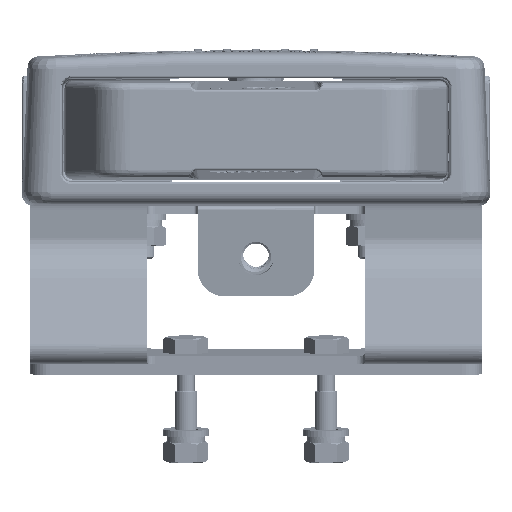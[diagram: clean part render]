
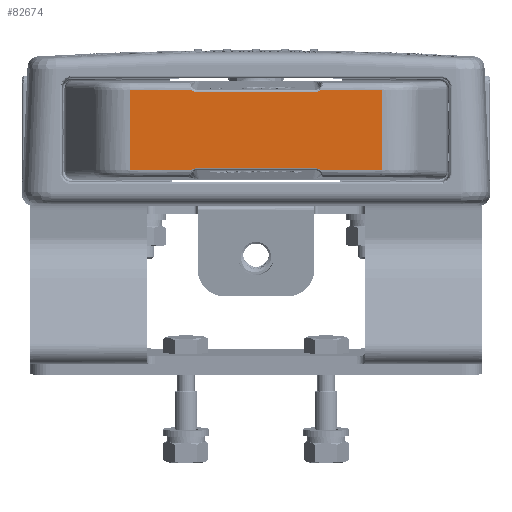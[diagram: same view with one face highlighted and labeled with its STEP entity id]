
A CAD part, front view. The second image highlights one B-rep face of the part: STEP entity #82674.
In plain terms, the highlighted planar face has unit normal (0, -1, 0) as drawn and (0, 0, 1) by its records, which use the part's own axes.
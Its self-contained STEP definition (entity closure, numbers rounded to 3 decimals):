
#74331=CARTESIAN_POINT('',(15.288,-9.802,
-9.326));
#74332=CARTESIAN_POINT('',(15.364,-9.802,
-9.326));
#74333=CARTESIAN_POINT('',(15.515,-9.81,
-9.326));
#74334=CARTESIAN_POINT('',(15.74,-9.849,
-9.326));
#74335=CARTESIAN_POINT('',(15.885,-9.892,
-9.326));
#74336=CARTESIAN_POINT('',(15.956,-9.917,
-9.326));
#74341=CARTESIAN_POINT('',(-15.956,-9.917,
-9.326));
#74342=CARTESIAN_POINT('',(-15.885,-9.892,
-9.326));
#74343=CARTESIAN_POINT('',(-15.74,-9.849,
-9.326));
#74344=CARTESIAN_POINT('',(-15.515,-9.81,
-9.326));
#74345=CARTESIAN_POINT('',(-15.364,-9.802,
-9.326));
#74346=CARTESIAN_POINT('',(-15.288,-9.802,
-9.326));
#74351=CARTESIAN_POINT('',(-16.45,-10.176,
-9.326));
#74352=CARTESIAN_POINT('',(-16.4,-10.14,
-9.326));
#74353=CARTESIAN_POINT('',(-16.295,-10.072,
-9.326));
#74354=CARTESIAN_POINT('',(-16.13,-9.985,
-9.326));
#74355=CARTESIAN_POINT('',(-16.015,-9.938,
-9.326));
#74356=CARTESIAN_POINT('',(-15.956,-9.917,
-9.326));
#74361=DIRECTION('',(1.,0.,0.));
#74362=VECTOR('',#74361,15.892);
#74363=CARTESIAN_POINT('',(-32.342,-10.176,
-9.326));
#74364=LINE('',#74363,#74362);
#74368=DIRECTION('',(-1.,0.,0.));
#74369=VECTOR('',#74368,15.892);
#74370=CARTESIAN_POINT('',(-16.45,10.176,
-9.326));
#74371=LINE('',#74370,#74369);
#74375=CARTESIAN_POINT('',(-15.956,9.917,
-9.326));
#74376=CARTESIAN_POINT('',(-16.015,9.938,
-9.326));
#74377=CARTESIAN_POINT('',(-16.13,9.985,
-9.326));
#74378=CARTESIAN_POINT('',(-16.295,10.072,
-9.326));
#74379=CARTESIAN_POINT('',(-16.4,10.14,
-9.326));
#74380=CARTESIAN_POINT('',(-16.45,10.176,
-9.326));
#74385=CARTESIAN_POINT('',(-15.288,9.802,
-9.326));
#74386=CARTESIAN_POINT('',(-15.364,9.802,
-9.326));
#74387=CARTESIAN_POINT('',(-15.515,9.81,
-9.326));
#74388=CARTESIAN_POINT('',(-15.74,9.849,
-9.326));
#74389=CARTESIAN_POINT('',(-15.885,9.892,
-9.326));
#74390=CARTESIAN_POINT('',(-15.956,9.917,
-9.326));
#74395=CARTESIAN_POINT('',(15.956,9.917,
-9.326));
#74396=CARTESIAN_POINT('',(15.885,9.892,
-9.326));
#74397=CARTESIAN_POINT('',(15.74,9.849,
-9.326));
#74398=CARTESIAN_POINT('',(15.515,9.81,
-9.326));
#74399=CARTESIAN_POINT('',(15.364,9.802,
-9.326));
#74400=CARTESIAN_POINT('',(15.288,9.802,
-9.326));
#74405=CARTESIAN_POINT('',(16.45,10.176,
-9.326));
#74406=CARTESIAN_POINT('',(16.4,10.14,
-9.326));
#74407=CARTESIAN_POINT('',(16.295,10.072,
-9.326));
#74408=CARTESIAN_POINT('',(16.13,9.985,
-9.326));
#74409=CARTESIAN_POINT('',(16.015,9.938,
-9.326));
#74410=CARTESIAN_POINT('',(15.956,9.917,
-9.326));
#74415=DIRECTION('',(-1.,0.,0.));
#74416=VECTOR('',#74415,15.892);
#74417=CARTESIAN_POINT('',(32.342,10.176,
-9.326));
#74418=LINE('',#74417,#74416);
#74422=DIRECTION('',(1.,0.,0.));
#74423=VECTOR('',#74422,15.892);
#74424=CARTESIAN_POINT('',(16.45,-10.176,
-9.326));
#74425=LINE('',#74424,#74423);
#74429=CARTESIAN_POINT('',(15.956,-9.917,
-9.326));
#74430=CARTESIAN_POINT('',(16.015,-9.938,
-9.326));
#74431=CARTESIAN_POINT('',(16.13,-9.985,
-9.326));
#74432=CARTESIAN_POINT('',(16.295,-10.072,
-9.326));
#74433=CARTESIAN_POINT('',(16.4,-10.14,
-9.326));
#74434=CARTESIAN_POINT('',(16.45,-10.176,
-9.326));
#74578=DIRECTION('',(0.,-1.,0.));
#74579=VECTOR('',#74578,20.352);
#74580=CARTESIAN_POINT('',(32.342,10.176,
-9.326));
#74581=LINE('',#74580,#74579);
#75436=DIRECTION('',(1.,0.,0.));
#75437=VECTOR('',#75436,30.577);
#75438=CARTESIAN_POINT('',(-15.288,9.802,
-9.326));
#75439=LINE('',#75438,#75437);
#75470=CARTESIAN_POINT('',(-16.45,10.176,
-9.326));
#75514=DIRECTION('',(0.,1.,0.));
#75515=VECTOR('',#75514,20.352);
#75516=CARTESIAN_POINT('',(-32.342,-10.176,
-9.326));
#75517=LINE('',#75516,#75515);
#77311=DIRECTION('',(-1.,0.,0.));
#77312=VECTOR('',#77311,30.577);
#77313=CARTESIAN_POINT('',(15.288,-9.802,
-9.326));
#77314=LINE('',#77313,#77312);
#81027=VERTEX_POINT('',#75470);
#81028=CARTESIAN_POINT('',(-32.342,10.176,
-9.326));
#81029=VERTEX_POINT('',#81028);
#81030=VERTEX_POINT('',#74331);
#81031=VERTEX_POINT('',#74336);
#81032=VERTEX_POINT('',#74434);
#81033=CARTESIAN_POINT('',(32.342,-10.176,
-9.326));
#81034=VERTEX_POINT('',#81033);
#81035=CARTESIAN_POINT('',(32.342,10.176,
-9.326));
#81036=VERTEX_POINT('',#81035);
#81037=CARTESIAN_POINT('',(16.45,10.176,
-9.326));
#81038=VERTEX_POINT('',#81037);
#81039=VERTEX_POINT('',#74410);
#81040=VERTEX_POINT('',#74400);
#81041=CARTESIAN_POINT('',(-15.288,9.802,
-9.326));
#81042=VERTEX_POINT('',#81041);
#81043=VERTEX_POINT('',#74390);
#81044=CARTESIAN_POINT('',(-32.342,-10.176,
-9.326));
#81045=VERTEX_POINT('',#81044);
#81046=CARTESIAN_POINT('',(-16.45,-10.176,
-9.326));
#81047=VERTEX_POINT('',#81046);
#81048=VERTEX_POINT('',#74356);
#81049=VERTEX_POINT('',#74346);
#82638=CARTESIAN_POINT('',(50.,12.5,-9.326));
#82639=DIRECTION('',(0.,0.,1.));
#82640=DIRECTION('',(1.,0.,0.));
#82641=AXIS2_PLACEMENT_3D('',#82638,#82639,#82640);
#82642=PLANE('',#82641);
#82644=ORIENTED_EDGE('',*,*,#82643,.F.);
#82646=ORIENTED_EDGE('',*,*,#82645,.T.);
#82647=ORIENTED_EDGE('',*,*,#82631,.F.);
#82648=ORIENTED_EDGE('',*,*,#82629,.F.);
#82649=ORIENTED_EDGE('',*,*,#82547,.F.);
#82651=ORIENTED_EDGE('',*,*,#82650,.T.);
#82653=ORIENTED_EDGE('',*,*,#82652,.F.);
#82655=ORIENTED_EDGE('',*,*,#82654,.F.);
#82657=ORIENTED_EDGE('',*,*,#82656,.F.);
#82659=ORIENTED_EDGE('',*,*,#82658,.T.);
#82661=ORIENTED_EDGE('',*,*,#82660,.F.);
#82663=ORIENTED_EDGE('',*,*,#82662,.F.);
#82665=ORIENTED_EDGE('',*,*,#82664,.F.);
#82667=ORIENTED_EDGE('',*,*,#82666,.T.);
#82669=ORIENTED_EDGE('',*,*,#82668,.F.);
#82671=ORIENTED_EDGE('',*,*,#82670,.F.);
#82672=EDGE_LOOP('',(#82644,#82646,#82647,#82648,#82649,#82651,#82653,#82655,
#82657,#82659,#82661,#82663,#82665,#82667,#82669,#82671));
#82673=FACE_OUTER_BOUND('',#82672,.F.);
#82674=ADVANCED_FACE('',(#82673),#82642,.T.);
#74337=B_SPLINE_CURVE_WITH_KNOTS('',3,(#74331,#74332,#74333,#74334,#74335,
#74336),.UNSPECIFIED.,.F.,.F.,(4,1,1,4),(0.,0.333,
0.667,1.),.UNSPECIFIED.);
#74347=B_SPLINE_CURVE_WITH_KNOTS('',3,(#74341,#74342,#74343,#74344,#74345,
#74346),.UNSPECIFIED.,.F.,.F.,(4,1,1,4),(0.,0.333,
0.667,1.),.UNSPECIFIED.);
#74357=B_SPLINE_CURVE_WITH_KNOTS('',3,(#74351,#74352,#74353,#74354,#74355,
#74356),.UNSPECIFIED.,.F.,.F.,(4,1,1,4),(0.,0.333,
0.667,1.),.UNSPECIFIED.);
#74381=B_SPLINE_CURVE_WITH_KNOTS('',3,(#74375,#74376,#74377,#74378,#74379,
#74380),.UNSPECIFIED.,.F.,.F.,(4,1,1,4),(0.,0.333,
0.667,1.),.UNSPECIFIED.);
#74391=B_SPLINE_CURVE_WITH_KNOTS('',3,(#74385,#74386,#74387,#74388,#74389,
#74390),.UNSPECIFIED.,.F.,.F.,(4,1,1,4),(0.,0.333,
0.667,1.),.UNSPECIFIED.);
#74401=B_SPLINE_CURVE_WITH_KNOTS('',3,(#74395,#74396,#74397,#74398,#74399,
#74400),.UNSPECIFIED.,.F.,.F.,(4,1,1,4),(0.,0.333,
0.667,1.),.UNSPECIFIED.);
#74411=B_SPLINE_CURVE_WITH_KNOTS('',3,(#74405,#74406,#74407,#74408,#74409,
#74410),.UNSPECIFIED.,.F.,.F.,(4,1,1,4),(0.,0.333,
0.667,1.),.UNSPECIFIED.);
#74435=B_SPLINE_CURVE_WITH_KNOTS('',3,(#74429,#74430,#74431,#74432,#74433,
#74434),.UNSPECIFIED.,.F.,.F.,(4,1,1,4),(0.,0.333,
0.667,1.),.UNSPECIFIED.);
#82547=EDGE_CURVE('',#81045,#81047,#74364,.T.);
#82629=EDGE_CURVE('',#81047,#81048,#74357,.T.);
#82631=EDGE_CURVE('',#81048,#81049,#74347,.T.);
#82643=EDGE_CURVE('',#81030,#81031,#74337,.T.);
#82645=EDGE_CURVE('',#81030,#81049,#77314,.T.);
#82650=EDGE_CURVE('',#81045,#81029,#75517,.T.);
#82652=EDGE_CURVE('',#81027,#81029,#74371,.T.);
#82654=EDGE_CURVE('',#81043,#81027,#74381,.T.);
#82656=EDGE_CURVE('',#81042,#81043,#74391,.T.);
#82658=EDGE_CURVE('',#81042,#81040,#75439,.T.);
#82660=EDGE_CURVE('',#81039,#81040,#74401,.T.);
#82662=EDGE_CURVE('',#81038,#81039,#74411,.T.);
#82664=EDGE_CURVE('',#81036,#81038,#74418,.T.);
#82666=EDGE_CURVE('',#81036,#81034,#74581,.T.);
#82668=EDGE_CURVE('',#81032,#81034,#74425,.T.);
#82670=EDGE_CURVE('',#81031,#81032,#74435,.T.);
